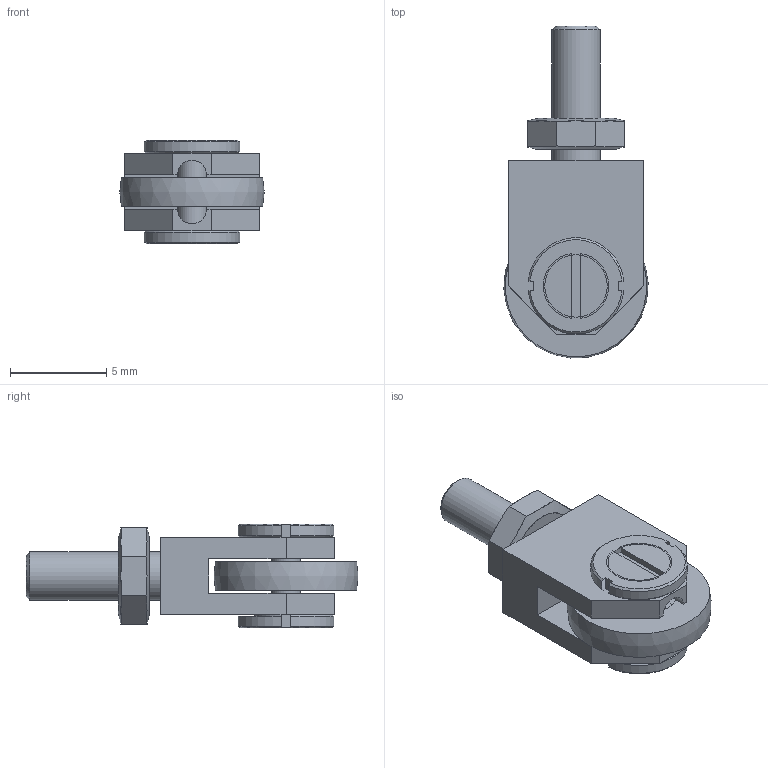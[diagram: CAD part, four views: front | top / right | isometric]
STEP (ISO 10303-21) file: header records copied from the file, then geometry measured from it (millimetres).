
FILE_DESCRIPTION( ( 'STEP AP203' ), '1' );
FILE_NAME( 'N:/Engineering/CAD_Solid/LVDT/Zubehör/Messrolle.stp', '2010-09-13T07:13:10', ( ' ' ), ( ' ' ), 'XStep 1.0', ' ', ' ' );
FILE_SCHEMA( ( 'CONFIG_CONTROL_DESIGN) ( )' ) );
Length unit declared in the file: metre
Products named in the file (4): 1; 2; 3; 4
Bounding box: 7.49 x 17.24 x 5.4 mm (x, y, z)
Surface area: 556.8 mm2 (no closed solid volume)
Topology: 0 solids, 68 shells, 68 faces, 314 edges, 304 vertices
Faces by surface type: plane 45, cylinder 12, cone 10, sphere 1
Full cylindrical faces by diameter (mm): 1.5 x2, 2.5 x1, 2.54 x1, 3.242 x2
Entity records: 3428 total; most frequent: CARTESIAN_POINT 958, DIRECTION 464, ORIENTED_EDGE 300, EDGE_CURVE 300, VERTEX_POINT 300, LINE 168, VECTOR 168, AXIS2_PLACEMENT_3D 148
